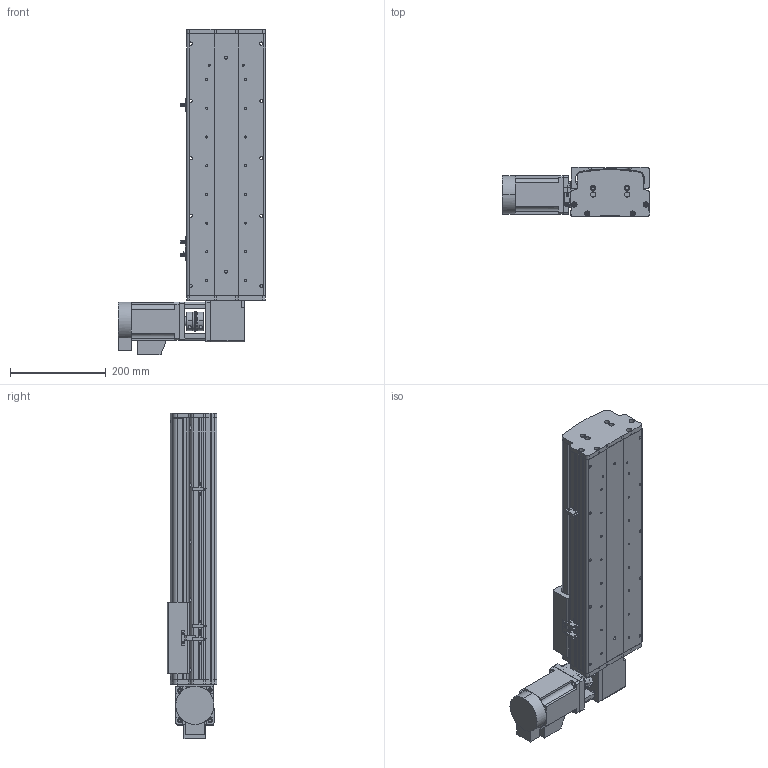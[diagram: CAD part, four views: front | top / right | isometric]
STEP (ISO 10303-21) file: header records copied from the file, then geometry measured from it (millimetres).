
FILE_DESCRIPTION (( 'STEP AP214' ), '1' );
FILE_NAME ('KSD165B-S300-MRT-CM.STEP', '2017-10-17T01:05:28', ( '微软用户' ), ( '微软中国' ), 'SwSTEP 2.0', 'SolidWorks 2014', '' );
FILE_SCHEMA (( 'AUTOMOTIVE_DESIGN' ));
Length unit declared in the file: millimetre
Products named in the file (16): 165宽安装板同步带带电机座750W; 165宽马达安装板同步带左-改; KSD165模组-同步带防尘盖1-300行程-最新版; KSD165模组同步带底板-300行程-最新; C39ㄜ1419WP; U倰嫖萇假蚾璃; U倰嫖萇EEㄜSX672; 覜茼え68遵圉猾敕; KSD165模组-同步带-防撞垫2; KSD165模组同步带-防撞垫1; KSD165耀郪-ヶ傷啣1-肮祭湍; KSD165模组-后端板1-同步带; 130宽马达安装板1-带电机座750W（1）; KSD165模组-同步带滑动座-最新版; KSD165B-S300-MRT-CM; 拸秶雄ん750W侜督萇儂
Assembly tree (19 placements, depth 2):
  KSD165B-S300-MRT-CM
    KSD165模组-同步带滑动座-最新版
    130宽马达安装板1-带电机座750W（1）
    KSD165模组-后端板1-同步带
    KSD165耀郪-ヶ傷啣1-肮祭湍
    KSD165模组同步带-防撞垫1
    KSD165模组-同步带-防撞垫2
    覜茼え68遵圉猾敕
    U倰嫖萇EEㄜSX672  x3
    U倰嫖萇假蚾璃  x3
    C39ㄜ1419WP
    KSD165模组同步带底板-300行程-最新
    KSD165模组-同步带防尘盖1-300行程-最新版
    165宽马达安装板同步带左-改
    165宽安装板同步带带电机座750W
    拸秶雄ん750W侜督萇儂
Bounding box: 307.5 x 104 x 681.06 mm (x, y, z)
Volume: 4727307.1 mm3; surface area: 1037848.1 mm2
Topology: 20 solids, 21 shells, 1410 faces, 3900 edges, 2521 vertices
Faces by surface type: cylinder 745, plane 571, cone 94
Entity records: 43955 total; most frequent: CARTESIAN_POINT 9223, DIRECTION 6874, ORIENTED_EDGE 6452, EDGE_CURVE 3226, AXIS2_PLACEMENT_3D 2596, VERTEX_POINT 2113, VECTOR 1682, LINE 1682
